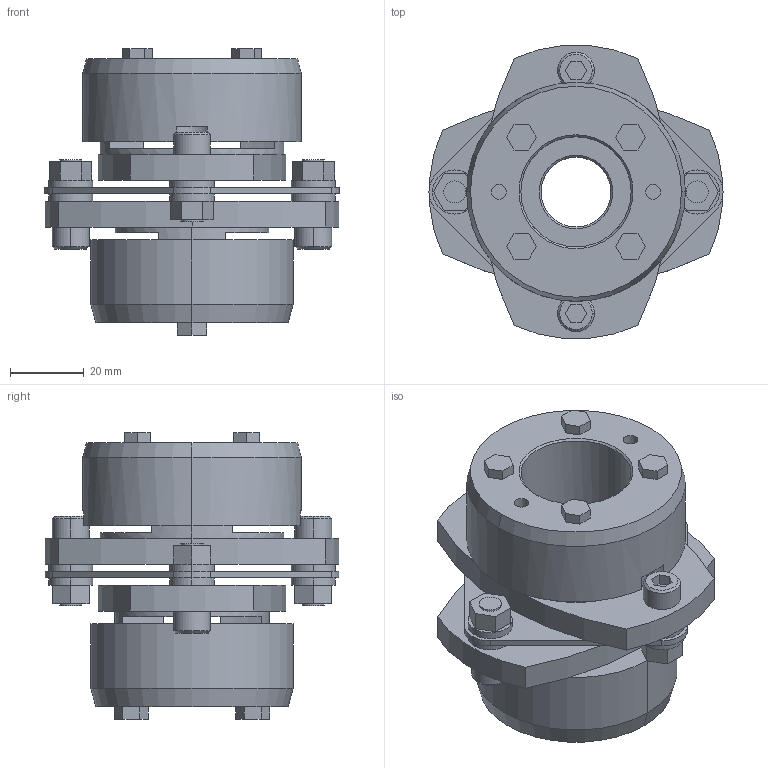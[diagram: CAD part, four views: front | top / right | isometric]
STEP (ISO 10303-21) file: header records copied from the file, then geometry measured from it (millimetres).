
FILE_DESCRIPTION((''),'2;1');
FILE_NAME('LCS-80T7-19×30.stp','2011-09-12T15:27:24',(''),(''),'AutoCAD STEP 2000i','AutoCAD 2000i',', , ');
FILE_SCHEMA(('CONFIG_CONTROL_DESIGN'));
Length unit declared in the file: millimetre
Products named in the file (11): LCS-80T7-19×30; 忣兜1; LC80T7-T030; LC80T7-T028; LC80T7-T024; LC80T7-T022; LC80T7-T019-1; LC80T7-T019; LC80T7-T017-1; LC80T7-T017; LCS80-ITA
Assembly tree (10 placements, depth 2):
  LCS-80T7-19×30
    忣兜1
    LC80T7-T030
    LC80T7-T028
    LC80T7-T024
    LC80T7-T022
    LC80T7-T019-1
    LC80T7-T019
    LC80T7-T017-1
    LC80T7-T017
    LCS80-ITA
Bounding box: 80 x 79.95 x 78.05 mm (x, y, z)
Volume: 149418.5 mm3; surface area: 43020.2 mm2
Topology: 1 solids, 1 shells, 236 faces, 580 edges, 380 vertices
Faces by surface type: plane 134, cylinder 82, cone 20
Entity records: 7259 total; most frequent: DIRECTION 1278, CARTESIAN_POINT 1207, ORIENTED_EDGE 1160, EDGE_CURVE 580, AXIS2_PLACEMENT_3D 451, VERTEX_POINT 380, VECTOR 376, LINE 376
